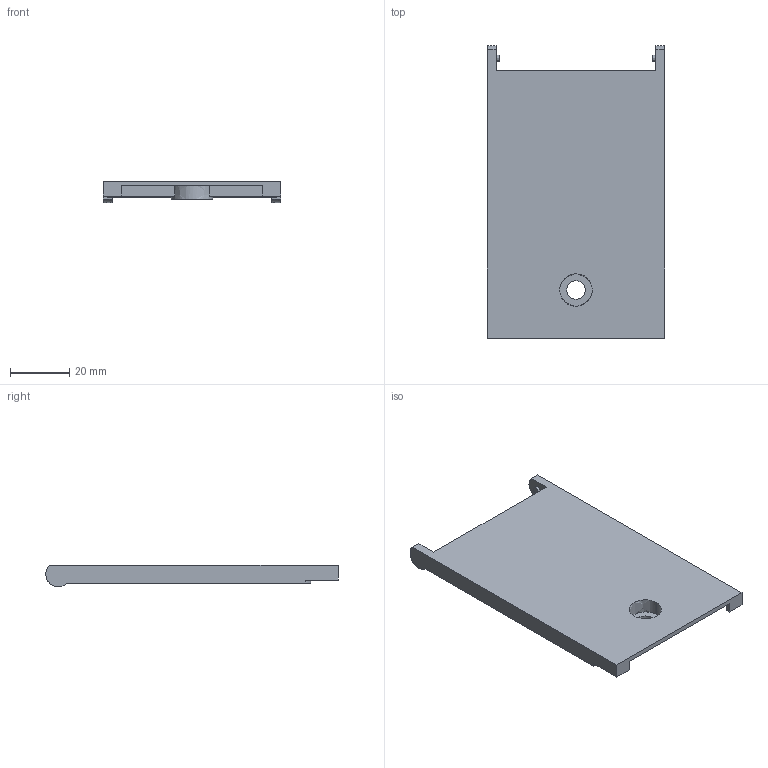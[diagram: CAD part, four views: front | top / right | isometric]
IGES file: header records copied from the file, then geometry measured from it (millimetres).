
Start section:  PTC IGES file: j5d-w60-cover1.igs
Global section: file name: j5d-w60-cover1.igs; native system: Creo Parametric by PTC Inc.; preprocessor: 2020184; author: VX25986; organization: Unknown; date: 20210323.200201; units: millimetre
Bounding box: 60 x 99.05 x 7.25 mm (x, y, z)
Surface area: 14441.7 mm2 (no closed solid volume)
Topology: 0 solids, 0 shells, 49 faces, 260 edges, 260 vertices
Faces by surface type: bspline 49
